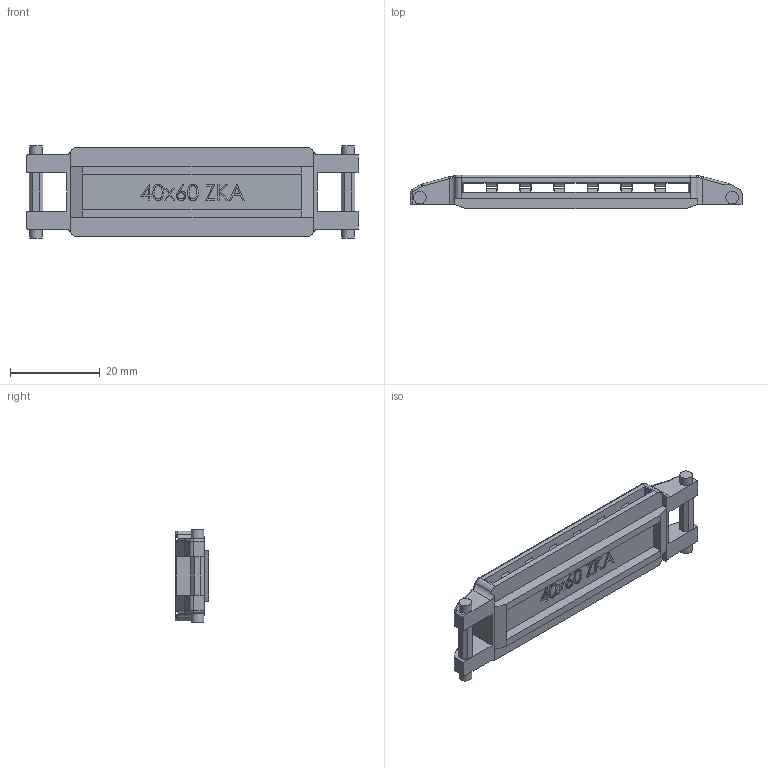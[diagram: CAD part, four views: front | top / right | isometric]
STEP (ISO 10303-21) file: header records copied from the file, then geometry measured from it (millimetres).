
FILE_DESCRIPTION((''),'2; 1');
FILE_NAME('','2026-03-26T10:14:23',(''),(''),'CST STEP Exporter V1.0','Unknown','');
FILE_SCHEMA(('CONFIG_CONTROL_DESIGN'));
Length unit declared in the file: metre
Bounding box: 73.8 x 7.5 x 20.5 mm (x, y, z)
Surface area: 6193 mm2 (no closed solid volume)
Topology: 0 solids, 1 shells, 262 faces, 753 edges, 478 vertices
Faces by surface type: plane 167, cylinder 54, extrusion 27, torus 10, sphere 4
Full cylindrical faces by diameter (mm): 2.8 x4
Entity records: 11089 total; most frequent: CARTESIAN_POINT 2445, ORIENTED_EDGE 1424, DIRECTION 1226, EDGE_CURVE 745, VECTOR 538, LINE 511, VERTEX_POINT 478, AXIS2_PLACEMENT_3D 344
